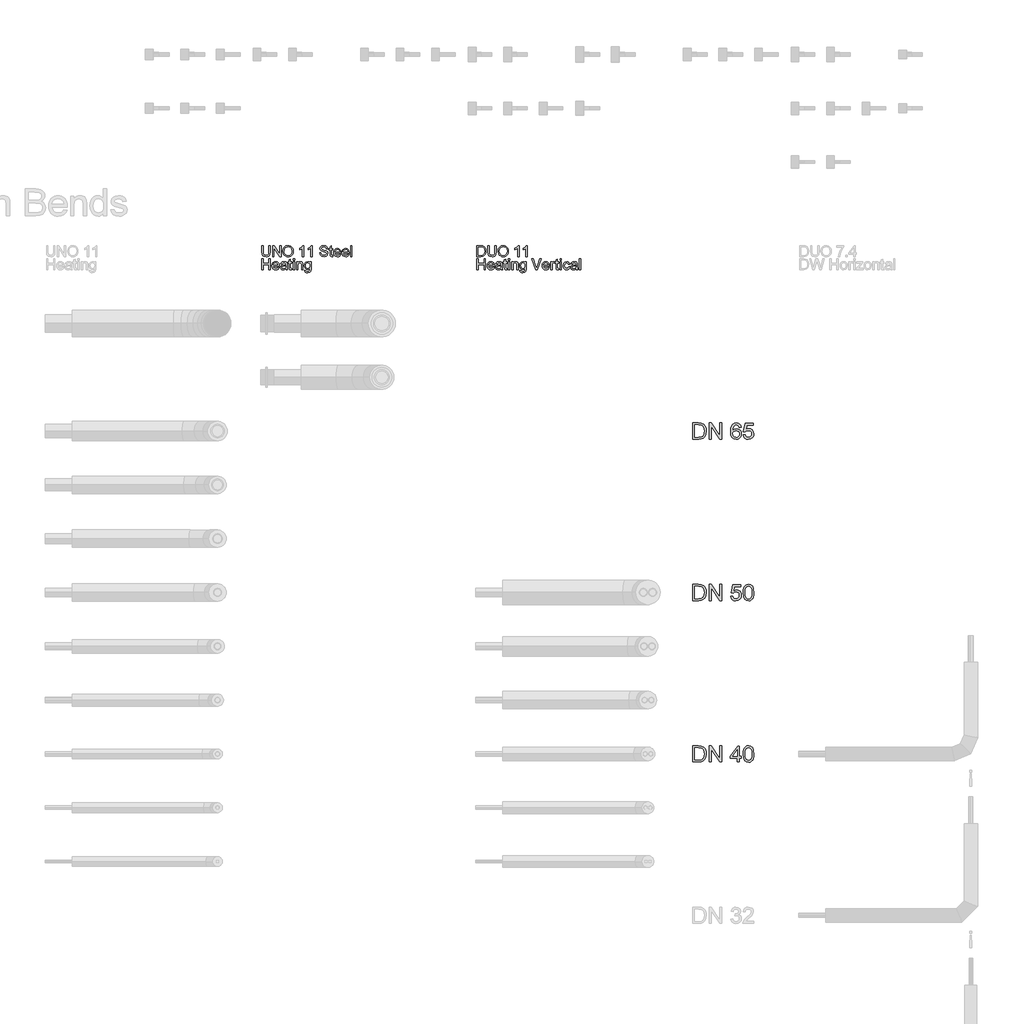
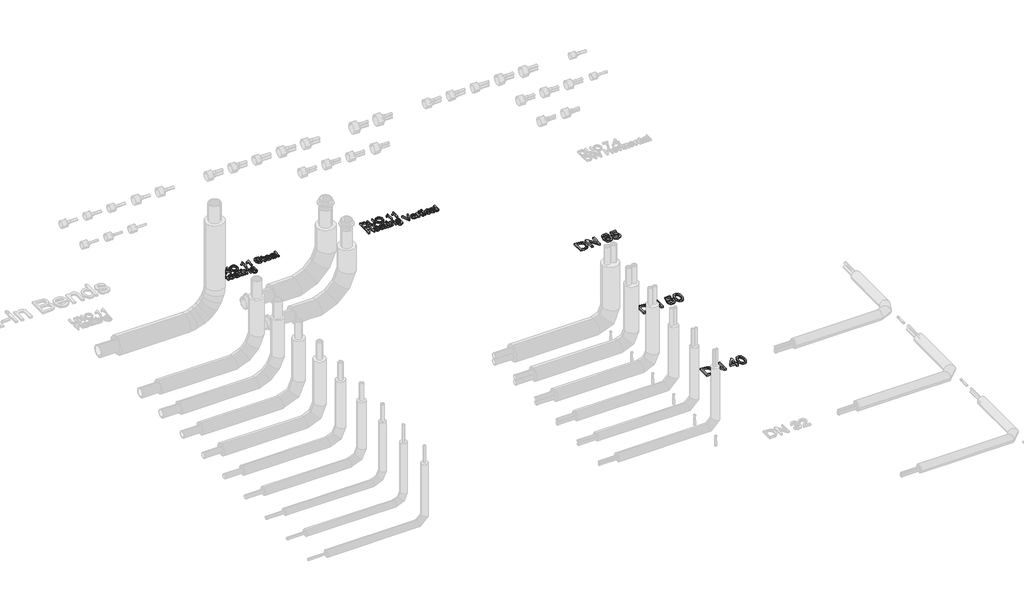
# One storey, part 11 of 44: 5 proxies.
"""IFC4 building model written with IfcOpenShell, lengths in millimetres."""

import ifcopenshell
import ifcopenshell.guid

model = None  # the IFC model being written
_history = None  # IfcOwnerHistory: only IFC2X3 demands one
_inside = {}  # id of a spatial element -> (the spatial element, [elements in it])
_under = {}  # id of a project, library or spatial element -> (it, [spatial elements below it])
_declared = {}  # id of a project -> (the project, [libraries it declares])
_typed = {}  # id of a type object -> (the type object, [elements of that type])
_made_of = {}  # id of a material, layer set ... -> (it, [elements and type objects made of it])


def new_model(schema):
    """Start an empty IFC model of exactly this schema.

    Asked for "IFC4X3", IfcOpenShell would pick the latest addendum, in which some entities
    have other attributes; the version numbers below select the first issue.
    IFC2X3 requires an IfcOwnerHistory on every rooted entity: one is made here for all.
    """
    global model, _history
    if schema == "IFC4X3":
        model = ifcopenshell.file(schema_version=(4, 3, 0, 0))
    else:
        model = ifcopenshell.file(schema=schema)
    _inside.clear()
    _under.clear()
    _declared.clear()
    _typed.clear()
    _made_of.clear()
    _history = None
    if model.schema == "IFC2X3":
        org = make("IfcOrganization", Name="unknown")
        user = make(
            "IfcPersonAndOrganization",
            ThePerson=make("IfcPerson", FamilyName="unknown"),
            TheOrganization=org,
        )
        app = make(
            "IfcApplication",
            ApplicationDeveloper=org,
            Version="unknown",
            ApplicationFullName="unknown",
            ApplicationIdentifier="unknown",
        )
        _history = make(
            "IfcOwnerHistory",
            OwningUser=user,
            OwningApplication=app,
            ChangeAction="ADDED",
            CreationDate=0,
        )
    return model


def make(cls, **values):
    """One entity of the class cls with the attributes given. An attribute that is None is left unset."""
    return model.create_entity(
        cls, **{name: value for name, value in values.items() if value is not None}
    )


def rooted(cls, **values):
    """An entity with a GlobalId (a new one), such as an element, a storey or a relation."""
    return make(cls, GlobalId=ifcopenshell.guid.new(), OwnerHistory=_history, **values)


def si_unit(unit_type, name, prefix=None):
    """IfcSIUnit, for example si_unit("LENGTHUNIT", "METRE", prefix="MILLI")."""
    return make("IfcSIUnit", UnitType=unit_type, Prefix=prefix, Name=name)


def assignment(units):
    """IfcUnitAssignment: the units of a project."""
    return None if units is None else make("IfcUnitAssignment", Units=units)


def point(xyz):
    """IfcCartesianPoint."""
    return None if xyz is None else make("IfcCartesianPoint", Coordinates=xyz)


def direction(xyz):
    """IfcDirection."""
    return None if xyz is None else make("IfcDirection", DirectionRatios=xyz)


def frame(location, z_axis=None, x_axis=None):
    """IfcAxis2Placement3D, a coordinate frame: its origin and axes. An axis left out is left unset."""
    return make(
        "IfcAxis2Placement3D",
        Location=point(location),
        Axis=direction(z_axis),
        RefDirection=direction(x_axis),
    )


def origin():
    """The frame at (0, 0, 0) with its axes left unset."""
    return frame((0.0, 0.0, 0.0))


def origin_with_axes():
    """The frame at (0, 0, 0) with the z axis (0, 0, 1) and the x axis (1, 0, 0) written out."""
    return frame((0.0, 0.0, 0.0), z_axis=(0.0, 0.0, 1.0), x_axis=(1.0, 0.0, 0.0))


def place(relative_to, where):
    """IfcLocalPlacement: puts the frame where relative to a parent placement (None: the world)."""
    return make(
        "IfcLocalPlacement", PlacementRelTo=relative_to, RelativePlacement=where
    )


def context(
    kind, dimensions, precision=None, world=None, true_north=None, identifier=None
):
    """IfcGeometricRepresentationContext, for example the 3D "Model" context."""
    return make(
        "IfcGeometricRepresentationContext",
        ContextIdentifier=identifier,
        ContextType=kind,
        CoordinateSpaceDimension=dimensions,
        Precision=precision,
        WorldCoordinateSystem=world,
        TrueNorth=true_north,
    )


def project(units=None, contexts=None):
    """IfcProject with its units and contexts."""
    return rooted(
        "IfcProject",
        Name="project",
        RepresentationContexts=contexts,
        UnitsInContext=assignment(units),
    )


def spatial(cls, under=None, at=None, **own):
    """A site, building, storey or space (cls), placed at a placement, below another one or the project."""
    s = rooted(cls, ObjectPlacement=at, **own)
    if under is not None:
        _under.setdefault(under.id(), (under, []))[1].append(s)
    return s


def polyline(points):
    """IfcPolyline through the points."""
    return make("IfcPolyline", Points=[point(p) for p in points])


def outline(outer, holes=None, kind="AREA"):
    """IfcArbitraryClosedProfileDef: a profile drawn as a closed curve; with holes, ...WithVoids."""
    if holes is None:
        return make("IfcArbitraryClosedProfileDef", ProfileType=kind, OuterCurve=outer)
    return make(
        "IfcArbitraryProfileDefWithVoids",
        ProfileType=kind,
        OuterCurve=outer,
        InnerCurves=holes,
    )


def extrude(swept, where, along, depth):
    """IfcExtrudedAreaSolid: the profile swept, set in the frame where, extruded along a direction by depth."""
    return make(
        "IfcExtrudedAreaSolid",
        SweptArea=swept,
        Position=where,
        ExtrudedDirection=direction(along),
        Depth=depth,
    )


def shape(context_of_items, identifier, shape_type, items):
    """IfcShapeRepresentation: the items that make up one representation, for example the "Body"."""
    return make(
        "IfcShapeRepresentation",
        ContextOfItems=context_of_items,
        RepresentationIdentifier=identifier,
        RepresentationType=shape_type,
        Items=items,
    )


def made_of(thing, what):
    """Note that an element or type object is made of a material, layer set ...; save() writes the relation."""
    if what is not None:
        _made_of.setdefault(what.id(), (what, []))[1].append(thing)
    return thing


def element(
    cls,
    number,
    at=None,
    inside=None,
    cuts=None,
    type_object=None,
    material=None,
    context=None,
    identifier="Body",
    shape_type=None,
    held_by="IfcProductDefinitionShape",
    body=None,
    shapes=None,
    **own,
):
    """One element of the class cls, such as IfcWall. Its Tag is "e" and its number.

    at: its placement. inside: the storey or other place that contains it. cuts: it is an
    opening in that element (IfcRelVoidsElement). A single representation is given by context,
    identifier, shape_type and body (its items); several are given by shapes. held_by: the class
    of the entity that holds the representations. save() writes the other relations.
    """
    e = rooted(cls, Tag="e%d" % number, ObjectPlacement=at, **own)
    if body is not None:
        shapes = [shape(context, identifier, shape_type, body)]
    if shapes is not None:
        e.Representation = make(held_by, Representations=shapes)
    if inside is not None:
        _inside.setdefault(inside.id(), (inside, []))[1].append(e)
    if cuts is not None:
        rooted(
            "IfcRelVoidsElement", RelatingBuildingElement=cuts, RelatedOpeningElement=e
        )
    if type_object is not None:
        _typed.setdefault(type_object.id(), (type_object, []))[1].append(e)
    return made_of(e, material)


def aggregate(whole, parts):
    """IfcRelAggregates: a whole, such as a stair, and the parts it consists of."""
    return rooted("IfcRelAggregates", RelatingObject=whole, RelatedObjects=parts)


def save(model, path):
    """Write the relations noted so far, then the file.

    IfcRelAggregates (storeys below a building ...), IfcRelContainedInSpatialStructure (elements
    in a storey), IfcRelDefinesByType, IfcRelAssociatesMaterial and IfcRelDeclares: one each for
    every whole, place, type object, material and project.
    """
    for whole, parts in _under.values():
        aggregate(whole, parts)
    for where, things in _inside.values():
        rooted(
            "IfcRelContainedInSpatialStructure",
            RelatedElements=things,
            RelatingStructure=where,
        )
    for kind, things in _typed.values():
        rooted("IfcRelDefinesByType", RelatedObjects=things, RelatingType=kind)
    for what, things in _made_of.values():
        rooted("IfcRelAssociatesMaterial", RelatedObjects=things, RelatingMaterial=what)
    for by, libraries in _declared.values():
        rooted("IfcRelDeclares", RelatingContext=by, RelatedDefinitions=libraries)
    model.write(path)


model = new_model("IFC4")

# Units and contexts
model_context = context("Model", 3, world=origin())
ifc_project = project(units=[si_unit("LENGTHUNIT", "METRE", prefix="MILLI")], contexts=[model_context])

# Site, building, storey
site = spatial("IfcSite", under=ifc_project)
building = spatial("IfcBuilding", under=site)
storey = spatial("IfcBuildingStorey", under=building, Name="REHAU Starting view", Elevation=0.0)

# Proxies
placement = place(None, origin())
element("IfcBuildingElementProxy", 1, Name="100", ObjectType="100", at=placement, inside=storey, context=model_context, shape_type="SweptSolid", body=[
    extrude(outline(polyline([(7076.9118625, 6222.431128), (7089.4689012, 6222.431128), (7089.4689012, 6164.477451), (7086.0598614, 6140.4547567), (7073.7726028, 6125.9847316), (7063.5086951, 6121.8000739), (7050.4734097, 6120.405188), (7027.529836, 6125.2612303), (7019.8901532, 6131.2055902), (7014.8011189, 6139.3265853), (7010.9874089, 6164.477451), (7010.9874089, 6222.431128), (7023.5444477, 6222.431128), (7023.5444477, 6164.9189094), (7026.0215198, 6145.7767829), (7034.5318566, 6136.2976902), (7049.2961874, 6132.9622268), (7062.067824, 6134.6115644), (7070.5597667, 6139.5595772), (7075.3238385, 6149.1980855), (7076.9118625, 6164.9189094), (7076.9118625, 6222.431128)])), origin_with_axes(), (0.0, 0.0, 1.0), 20.0),
    extrude(outline(polyline([(7111.4437191, 6121.9748178), (7111.4437191, 6222.431128), (7124.8836746, 6222.431128), (7177.3681726, 6142.8459897), (7177.3681726, 6222.431128), (7189.9252114, 6222.431128), (7189.9252114, 6121.9748178), (7176.4852558, 6121.9748178), (7124.0007578, 6201.5844816), (7124.0007578, 6121.9748178), (7111.4437191, 6121.9748178)])), origin_with_axes(), (0.0, 0.0, 1.0), 20.0),
    extrude(outline(polyline([(7207.1911397, 6170.8785977), (7210.5388658, 6193.0925389), (7220.5820443, 6209.8986147), (7235.9165921, 6220.4752221), (7255.1384264, 6224.0007578), (7268.3147332, 6222.3452889), (7280.1298766, 6217.3788819), (7289.9400631, 6209.4510249), (7297.1014993, 6198.9112058), (7301.479295, 6186.2683279), (7302.9385603, 6172.0312947), (7301.402653, 6157.6041891), (7296.794931, 6144.7835015), (7289.369846, 6134.2252883), (7279.3818499, 6126.5856055), (7267.667874, 6121.9502924), (7255.06485, 6120.405188), (7241.6862081, 6122.1127736), (7229.8036197, 6127.2355304), (7220.0179586, 6135.3105402), (7212.9300988, 6145.8748848), (7207.1911397, 6170.8785977)]), holes=[polyline([(7219.7481785, 6170.7559704), (7222.2589731, 6155.0412778), (7229.7913569, 6143.0667189), (7241.1129253, 6135.4883498), (7254.9912736, 6132.9622268), (7269.071957, 6135.5128753), (7280.4119195, 6143.1648208), (7287.889121, 6155.5072617), (7290.3815215, 6172.1293965), (7286.1140904, 6192.8534156), (7273.6428907, 6206.575414), (7255.2120028, 6211.4437191), (7241.7046022, 6209.0984714), (7230.2205526, 6202.0627282), (7222.366272, 6189.5455433), (7219.7481785, 6170.7559704)])]), origin_with_axes(), (0.0, 0.0, 1.0), 20.0),
    extrude(outline(polyline([(7401.8252406, 6121.9748178), (7389.2682018, 6121.9748178), (7389.2682018, 6200.2601064), (7377.3733507, 6191.7865578), (7364.1541243, 6185.4467247), (7364.1541243, 6197.3170505), (7382.5604868, 6209.0647488), (7393.7318367, 6222.431128), (7401.8252406, 6222.431128), (7401.8252406, 6121.9748178)])), origin_with_axes(), (0.0, 0.0, 1.0), 20.0),
    extrude(outline(polyline([(7478.7371031, 6121.9748178), (7466.1800643, 6121.9748178), (7466.1800643, 6200.2601064), (7454.2852131, 6191.7865578), (7441.0659868, 6185.4467247), (7441.0659868, 6197.3170505), (7459.4723492, 6209.0647488), (7470.6436992, 6222.431128), (7478.7371031, 6222.431128), (7478.7371031, 6121.9748178)])), origin_with_axes(), (0.0, 0.0, 1.0), 20.0),
    extrude(outline(polyline([(7547.8008163, 6156.5066745), (7560.3578551, 6156.5066745), (7564.404557, 6143.937373), (7574.2883199, 6135.9911219), (7589.3469563, 6132.9622268), (7602.4680808, 6135.2553579), (7610.9416294, 6141.5584027), (7613.7252698, 6149.9829004), (7611.6406052, 6157.8187869), (7603.1057429, 6163.5209578), (7584.8220077, 6168.3156865), (7565.140321, 6174.5083668), (7554.4594804, 6183.8525694), (7550.940076, 6196.3360318), (7555.2933463, 6210.5485396), (7568.0098006, 6220.5794553), (7586.6246295, 6224.0007578), (7606.4902572, 6220.4200398), (7619.7340091, 6209.8986147), (7624.7126787, 6194.1777908), (7612.15564, 6194.1777908), (7609.8502461, 6201.6703207), (7605.0432547, 6207.0781861), (7587.1151388, 6211.4437191), (7569.137972, 6207.127237), (7563.4971147, 6196.7039138), (7567.4947658, 6187.9973732), (7587.9980556, 6180.9830899), (7610.2181281, 6174.680045), (7622.3704967, 6164.5019765), (7626.2823086, 6150.3017315), (7621.7818855, 6135.2798833), (7608.8324393, 6124.3169999), (7589.8374656, 6120.405188), (7567.4089266, 6124.6235682), (7553.2209443, 6137.3277598), (7547.8008163, 6156.5066745)])), origin_with_axes(), (0.0, 0.0, 1.0), 20.0),
    extrude(outline(polyline([(7670.2319443, 6132.447192), (7671.8015741, 6121.6069359), (7662.4083205, 6120.405188), (7651.8868955, 6122.4898526), (7646.6384457, 6127.9590316), (7645.1178667, 6142.2083276), (7645.1178667, 6183.1903818), (7635.7000877, 6183.1903818), (7635.7000877, 6195.7474206), (7645.1178667, 6195.7474206), (7645.1178667, 6213.6755365), (7657.6749055, 6221.0577019), (7657.6749055, 6195.7474206), (7670.2319443, 6195.7474206), (7670.2319443, 6183.1903818), (7657.6749055, 6183.1903818), (7657.6749055, 6142.5762096), (7658.3370931, 6136.1014865), (7660.4830714, 6133.8083554), (7664.7627653, 6132.9622268), (7670.2319443, 6132.447192)])), origin_with_axes(), (0.0, 0.0, 1.0), 20.0),
    extrude(outline(polyline([(7734.4396152, 6143.9496357), (7746.7513993, 6142.3800058), (7742.3153556, 6133.1032482), (7735.2366928, 6126.1686726), (7725.6748266, 6121.8460591), (7713.7891725, 6120.405188), (7699.0554986, 6122.8914571), (7687.7186018, 6130.3502646), (7680.4897206, 6142.2972324), (7678.0800935, 6158.2479826), (7680.514246, 6174.7352273), (7687.8167036, 6187.0654055), (7699.0003163, 6194.7541392), (7713.077934, 6197.3170505), (7726.717159, 6194.7602706), (7737.6156631, 6187.089931), (7744.7617708, 6174.7842783), (7747.1438067, 6158.321559), (7747.0702303, 6154.9370446), (7690.6371323, 6154.9370446), (7692.8107017, 6145.5376596), (7697.8598821, 6138.6276095), (7705.1470113, 6134.3785724), (7714.0344272, 6132.9622268), (7726.3462113, 6135.5864517), (7734.4396152, 6143.9496357)]), holes=[polyline([(7690.6371323, 6167.4940834), (7734.586768, 6167.4940834), (7729.5590474, 6178.8738998), (7722.2381957, 6183.2884837), (7713.0288831, 6184.7600117), (7697.5655765, 6180.0633849), (7692.7003371, 6174.5727461), (7690.6371323, 6167.4940834)])]), origin_with_axes(), (0.0, 0.0, 1.0), 20.0),
    extrude(outline(polyline([(7811.3514776, 6143.9496357), (7823.6632617, 6142.3800058), (7819.227218, 6133.1032482), (7812.1485553, 6126.1686726), (7802.5866891, 6121.8460591), (7790.701035, 6120.405188), (7775.9673611, 6122.8914571), (7764.6304642, 6130.3502646), (7757.401583, 6142.2972324), (7754.991956, 6158.2479826), (7757.4261085, 6174.7352273), (7764.7285661, 6187.0654055), (7775.9121788, 6194.7541392), (7789.9897964, 6197.3170505), (7803.6290214, 6194.7602706), (7814.5275255, 6187.089931), (7821.6736333, 6174.7842783), (7824.0556692, 6158.321559), (7823.9820928, 6154.9370446), (7767.5489947, 6154.9370446), (7769.7225642, 6145.5376596), (7774.7717446, 6138.6276095), (7782.0588738, 6134.3785724), (7790.9462896, 6132.9622268), (7803.2580737, 6135.5864517), (7811.3514776, 6143.9496357)]), holes=[polyline([(7767.5489947, 6167.4940834), (7811.4986304, 6167.4940834), (7806.4709098, 6178.8738998), (7799.1500581, 6183.2884837), (7789.9407455, 6184.7600117), (7774.477439, 6180.0633849), (7769.6121996, 6174.5727461), (7767.5489947, 6167.4940834)])]), origin_with_axes(), (0.0, 0.0, 1.0), 20.0),
    extrude(outline(polyline([(7836.612708, 6121.9748178), (7836.612708, 6222.431128), (7849.1697467, 6222.431128), (7849.1697467, 6121.9748178), (7836.612708, 6121.9748178)])), origin_with_axes(), (0.0, 0.0, 1.0), 20.0),
    extrude(outline(polyline([(7010.9874089, 6000.0), (7010.9874089, 6100.4563101), (7023.5444477, 6100.4563101), (7023.5444477, 6059.6459342), (7076.9118625, 6059.6459342), (7076.9118625, 6100.4563101), (7089.4689012, 6100.4563101), (7089.4689012, 6000.0), (7076.9118625, 6000.0), (7076.9118625, 6047.0888954), (7023.5444477, 6047.0888954), (7023.5444477, 6000.0), (7010.9874089, 6000.0)])), origin_with_axes(), (0.0, 0.0, 1.0), 20.0),
    extrude(outline(polyline([(7161.5247213, 6021.9748178), (7173.8365055, 6020.405188), (7169.4004617, 6011.1284304), (7162.321799, 6004.1938547), (7152.7599328, 5999.8712413), (7140.8742787, 5998.4303702), (7126.1406048, 6000.9166393), (7114.803708, 6008.3754468), (7107.5748268, 6020.3224146), (7105.1651997, 6036.2731647), (7107.5993522, 6052.7604095), (7114.9018098, 6065.0905877), (7126.0854225, 6072.7793214), (7140.1630402, 6075.3422326), (7153.8022651, 6072.7854527), (7164.7007692, 6065.1151131), (7171.846877, 6052.8094604), (7174.2289129, 6036.3467411), (7174.1553365, 6032.9622268), (7117.7222385, 6032.9622268), (7119.8958079, 6023.5628418), (7124.9449883, 6016.6527916), (7132.2321175, 6012.4037546), (7141.1195333, 6010.9874089), (7153.4313175, 6013.6116338), (7161.5247213, 6021.9748178)]), holes=[polyline([(7117.7222385, 6045.5192655), (7161.6718741, 6045.5192655), (7156.6441535, 6056.8990819), (7149.3233018, 6061.3136659), (7140.1139892, 6062.7851938), (7124.6506827, 6058.088567), (7119.7854433, 6052.5979283), (7117.7222385, 6045.5192655)])]), origin_with_axes(), (0.0, 0.0, 1.0), 20.0),
    extrude(outline(polyline([(7233.8748471, 6009.4177791), (7221.697953, 6000.9074423), (7208.2457347, 5998.4303702), (7197.7519008, 5999.9202922), (7190.0110505, 6004.3900585), (7185.2377816, 6011.1774813), (7183.646692, 6019.6203731), (7186.0501877, 6029.5531869), (7192.3654953, 6036.7636741), (7201.157875, 6040.8839524), (7212.0226566, 6042.7724133), (7233.8012707, 6047.0888954), (7233.8748471, 6049.8847985), (7230.4167563, 6059.1554248), (7216.5353424, 6062.7851938), (7203.8311508, 6060.3694354), (7197.7733606, 6051.7977849), (7185.2163218, 6053.3674148), (7190.6487126, 6065.6301479), (7201.5870706, 6072.8161096), (7218.1540231, 6075.3422326), (7233.372075, 6073.1104152), (7241.968251, 6067.5063461), (7245.8187492, 6058.9837466), (7246.4318858, 6047.9963376), (7246.4318858, 6032.3736156), (7247.069548, 6010.5582133), (7249.5711455, 6000.0), (7237.0141068, 6000.0), (7233.8748471, 6009.4177791)]), holes=[polyline([(7233.8748471, 6034.5318566), (7213.6168119, 6030.6813584), (7202.8133439, 6028.6457447), (7197.9205134, 6025.3348067), (7196.2037308, 6020.5032899), (7199.9438644, 6013.7097357), (7210.9190106, 6010.9874089), (7223.6232021, 6013.9917785), (7231.8147079, 6021.2635793), (7233.8012707, 6030.975664), (7233.8748471, 6034.5318566)])]), origin_with_axes(), (0.0, 0.0, 1.0), 20.0),
    extrude(outline(polyline([(7290.3815215, 6010.4723741), (7291.9511514, 5999.632118), (7282.5578978, 5998.4303702), (7272.0364727, 6000.5150348), (7266.7880229, 6005.9842138), (7265.267444, 6020.2335097), (7265.267444, 6061.215564), (7255.8496649, 6061.215564), (7255.8496649, 6073.7726028), (7265.267444, 6073.7726028), (7265.267444, 6091.7007187), (7277.8244828, 6099.082884), (7277.8244828, 6073.7726028), (7290.3815215, 6073.7726028), (7290.3815215, 6061.215564), (7277.8244828, 6061.215564), (7277.8244828, 6020.6013917), (7278.4866703, 6014.1266686), (7280.6326487, 6011.8335375), (7284.9123425, 6010.9874089), (7290.3815215, 6010.4723741)])), origin_with_axes(), (0.0, 0.0, 1.0), 20.0),
    extrude(outline(polyline([(7302.9385603, 6087.8992714), (7302.9385603, 6100.4563101), (7315.4955991, 6100.4563101), (7315.4955991, 6087.8992714), (7302.9385603, 6087.8992714)])), origin_with_axes(), (0.0, 0.0, 1.0), 20.0),
    extrude(outline(polyline([(7302.9385603, 6000.0), (7302.9385603, 6073.7726028), (7315.4955991, 6073.7726028), (7315.4955991, 6000.0), (7302.9385603, 6000.0)])), origin_with_axes(), (0.0, 0.0, 1.0), 20.0),
    extrude(outline(polyline([(7334.3311572, 6000.0), (7334.3311572, 6073.7726028), (7346.888196, 6073.7726028), (7346.888196, 6063.4719069), (7356.4899161, 6072.3746512), (7369.5987778, 6075.3422326), (7381.4568408, 6072.9509996), (7389.5502447, 6066.6724803), (7393.3149038, 6057.4386422), (7393.9770914, 6045.2985363), (7393.9770914, 6000.0), (7381.4200526, 6000.0), (7381.4200526, 6043.6062792), (7379.9730501, 6054.7163154), (7374.8594904, 6060.5901646), (7366.2387889, 6062.7851938), (7352.6148924, 6057.8555751), (7348.3198701, 6050.712533), (7346.888196, 6039.1426443), (7346.888196, 6000.0), (7334.3311572, 6000.0)])), origin_with_axes(), (0.0, 0.0, 1.0), 20.0),
    extrude(outline(polyline([(7408.10376, 5993.7214806), (7420.6607988, 5992.1518508), (7424.7320262, 5985.5299749), (7436.9211829, 5982.7340717), (7449.7725273, 5985.8978569), (7455.9038939, 5994.7760757), (7456.7622852, 6009.4177791), (7447.9208546, 6002.3544448), (7437.1419121, 6000.0), (7424.1955316, 6002.7407209), (7414.5416949, 6010.9628835), (7408.5360213, 6023.0171502), (7406.5341301, 6037.2541834), (7410.127111, 6056.7151409), (7420.5259087, 6070.4861903), (7436.5287755, 6075.3422326), (7447.7307822, 6072.5953804), (7456.7622852, 6064.3548237), (7456.7622852, 6073.7726028), (7469.319324, 6073.7726028), (7469.319324, 6010.0799667), (7465.8857587, 5985.6893904), (7455.0087144, 5974.3463622), (7436.6759283, 5970.1770329), (7424.9926092, 5971.6454952), (7415.7924937, 5976.0508821), (7409.8910533, 5983.4054563), (7408.10376, 5993.7214806)]), holes=[polyline([(7419.0911689, 6038.1125747), (7420.4308725, 6026.5948026), (7424.4499833, 6018.6761426), (7430.4924451, 6014.0868147), (7437.9022016, 6012.5570388), (7445.2567758, 6014.0776177), (7451.3298944, 6018.6393544), (7455.4041875, 6026.4568468), (7456.7622852, 6037.7446927), (7455.3643336, 6048.6309341), (7451.1704789, 6056.4698863), (7445.0084555, 6061.2063669), (7437.7059979, 6062.7851938), (7430.5353646, 6061.2308924), (7424.5235597, 6056.5679881), (7420.4492666, 6048.8455319), (7419.0911689, 6038.1125747)])]), origin_with_axes(), (0.0, 0.0, 1.0), 20.0),
])
element("IfcBuildingElementProxy", 2, Name="100", ObjectType="100", at=placement, inside=storey, context=model_context, shape_type="SweptSolid", body=[
    extrude(outline(polyline([(9010.9874089, 6121.9748178), (9010.9874089, 6222.431128), (9045.6418929, 6222.431128), (9063.5700088, 6220.9841255), (9078.3343395, 6213.7981638), (9090.2291907, 6196.6303374), (9094.1777908, 6172.7425332), (9091.5045149, 6152.4722352), (9084.6373844, 6137.8427946), (9075.4648599, 6128.7315838), (9063.4596442, 6123.6916005), (9047.3096246, 6121.9748178), (9010.9874089, 6121.9748178)]), holes=[polyline([(9023.5444477, 6134.5318566), (9045.7645202, 6134.5318566), (9061.9268025, 6136.3467411), (9071.2464797, 6141.4725636), (9078.8861625, 6153.9437632), (9081.620752, 6172.9387369), (9080.2810484, 6186.6239471), (9076.2619376, 6196.7284393), (9063.2266522, 6207.863001), (9045.4211637, 6209.8740892), (9023.5444477, 6209.8740892), (9023.5444477, 6134.5318566)])]), origin_with_axes(), (0.0, 0.0, 1.0), 20.0),
    extrude(outline(polyline([(9177.3681726, 6222.431128), (9189.9252114, 6222.431128), (9189.9252114, 6164.477451), (9186.5161716, 6140.4547567), (9174.2289129, 6125.9847316), (9163.9650053, 6121.8000739), (9150.9297199, 6120.405188), (9127.9861461, 6125.2612303), (9120.3464634, 6131.2055902), (9115.2574291, 6139.3265853), (9111.4437191, 6164.477451), (9111.4437191, 6222.431128), (9124.0007578, 6222.431128), (9124.0007578, 6164.9189094), (9126.4778299, 6145.7767829), (9134.9881668, 6136.2976902), (9149.7524975, 6132.9622268), (9162.5241341, 6134.6115644), (9171.0160768, 6139.5595772), (9175.7801487, 6149.1980855), (9177.3681726, 6164.9189094), (9177.3681726, 6222.431128)])), origin_with_axes(), (0.0, 0.0, 1.0), 20.0),
    extrude(outline(polyline([(9207.1911397, 6170.8785977), (9210.5388658, 6193.0925389), (9220.5820443, 6209.8986147), (9235.9165921, 6220.4752221), (9255.1384264, 6224.0007578), (9268.3147332, 6222.3452889), (9280.1298766, 6217.3788819), (9289.9400631, 6209.4510249), (9297.1014993, 6198.9112058), (9301.479295, 6186.2683279), (9302.9385603, 6172.0312947), (9301.402653, 6157.6041891), (9296.794931, 6144.7835015), (9289.369846, 6134.2252883), (9279.3818499, 6126.5856055), (9267.667874, 6121.9502924), (9255.06485, 6120.405188), (9241.6862081, 6122.1127736), (9229.8036197, 6127.2355304), (9220.0179586, 6135.3105402), (9212.9300988, 6145.8748848), (9207.1911397, 6170.8785977)]), holes=[polyline([(9219.7481785, 6170.7559704), (9222.2589731, 6155.0412778), (9229.7913569, 6143.0667189), (9241.1129253, 6135.4883498), (9254.9912736, 6132.9622268), (9269.071957, 6135.5128753), (9280.4119195, 6143.1648208), (9287.889121, 6155.5072617), (9290.3815215, 6172.1293965), (9286.1140904, 6192.8534156), (9273.6428907, 6206.575414), (9255.2120028, 6211.4437191), (9241.7046022, 6209.0984714), (9230.2205526, 6202.0627282), (9222.366272, 6189.5455433), (9219.7481785, 6170.7559704)])]), origin_with_axes(), (0.0, 0.0, 1.0), 20.0),
    extrude(outline(polyline([(9401.8252406, 6121.9748178), (9389.2682018, 6121.9748178), (9389.2682018, 6200.2601064), (9377.3733507, 6191.7865578), (9364.1541243, 6185.4467247), (9364.1541243, 6197.3170505), (9382.5604868, 6209.0647488), (9393.7318367, 6222.431128), (9401.8252406, 6222.431128), (9401.8252406, 6121.9748178)])), origin_with_axes(), (0.0, 0.0, 1.0), 20.0),
    extrude(outline(polyline([(9478.7371031, 6121.9748178), (9466.1800643, 6121.9748178), (9466.1800643, 6200.2601064), (9454.2852131, 6191.7865578), (9441.0659868, 6185.4467247), (9441.0659868, 6197.3170505), (9459.4723492, 6209.0647488), (9470.6436992, 6222.431128), (9478.7371031, 6222.431128), (9478.7371031, 6121.9748178)])), origin_with_axes(), (0.0, 0.0, 1.0), 20.0),
    extrude(outline(polyline([(9010.9874089, 6000.0), (9010.9874089, 6100.4563101), (9023.5444477, 6100.4563101), (9023.5444477, 6059.6459342), (9076.9118625, 6059.6459342), (9076.9118625, 6100.4563101), (9089.4689012, 6100.4563101), (9089.4689012, 6000.0), (9076.9118625, 6000.0), (9076.9118625, 6047.0888954), (9023.5444477, 6047.0888954), (9023.5444477, 6000.0), (9010.9874089, 6000.0)])), origin_with_axes(), (0.0, 0.0, 1.0), 20.0),
    extrude(outline(polyline([(9161.5247213, 6021.9748178), (9173.8365055, 6020.405188), (9169.4004617, 6011.1284304), (9162.321799, 6004.1938547), (9152.7599328, 5999.8712413), (9140.8742787, 5998.4303702), (9126.1406048, 6000.9166393), (9114.803708, 6008.3754468), (9107.5748268, 6020.3224146), (9105.1651997, 6036.2731647), (9107.5993522, 6052.7604095), (9114.9018098, 6065.0905877), (9126.0854225, 6072.7793214), (9140.1630402, 6075.3422326), (9153.8022651, 6072.7854527), (9164.7007692, 6065.1151131), (9171.846877, 6052.8094604), (9174.2289129, 6036.3467411), (9174.1553365, 6032.9622268), (9117.7222385, 6032.9622268), (9119.8958079, 6023.5628418), (9124.9449883, 6016.6527916), (9132.2321175, 6012.4037546), (9141.1195333, 6010.9874089), (9153.4313175, 6013.6116338), (9161.5247213, 6021.9748178)]), holes=[polyline([(9117.7222385, 6045.5192655), (9161.6718741, 6045.5192655), (9156.6441535, 6056.8990819), (9149.3233018, 6061.3136659), (9140.1139892, 6062.7851938), (9124.6506827, 6058.088567), (9119.7854433, 6052.5979283), (9117.7222385, 6045.5192655)])]), origin_with_axes(), (0.0, 0.0, 1.0), 20.0),
    extrude(outline(polyline([(9233.8748471, 6009.4177791), (9221.697953, 6000.9074423), (9208.2457347, 5998.4303702), (9197.7519008, 5999.9202922), (9190.0110505, 6004.3900585), (9185.2377816, 6011.1774813), (9183.646692, 6019.6203731), (9186.0501877, 6029.5531869), (9192.3654953, 6036.7636741), (9201.157875, 6040.8839524), (9212.0226566, 6042.7724133), (9233.8012707, 6047.0888954), (9233.8748471, 6049.8847985), (9230.4167563, 6059.1554248), (9216.5353424, 6062.7851938), (9203.8311508, 6060.3694354), (9197.7733606, 6051.7977849), (9185.2163218, 6053.3674148), (9190.6487126, 6065.6301479), (9201.5870706, 6072.8161096), (9218.1540231, 6075.3422326), (9233.372075, 6073.1104152), (9241.968251, 6067.5063461), (9245.8187492, 6058.9837466), (9246.4318858, 6047.9963376), (9246.4318858, 6032.3736156), (9247.069548, 6010.5582133), (9249.5711455, 6000.0), (9237.0141068, 6000.0), (9233.8748471, 6009.4177791)]), holes=[polyline([(9233.8748471, 6034.5318566), (9213.6168119, 6030.6813584), (9202.8133439, 6028.6457447), (9197.9205134, 6025.3348067), (9196.2037308, 6020.5032899), (9199.9438644, 6013.7097357), (9210.9190106, 6010.9874089), (9223.6232021, 6013.9917785), (9231.8147079, 6021.2635793), (9233.8012707, 6030.975664), (9233.8748471, 6034.5318566)])]), origin_with_axes(), (0.0, 0.0, 1.0), 20.0),
    extrude(outline(polyline([(9290.3815215, 6010.4723741), (9291.9511514, 5999.632118), (9282.5578978, 5998.4303702), (9272.0364727, 6000.5150348), (9266.7880229, 6005.9842138), (9265.267444, 6020.2335097), (9265.267444, 6061.215564), (9255.8496649, 6061.215564), (9255.8496649, 6073.7726028), (9265.267444, 6073.7726028), (9265.267444, 6091.7007187), (9277.8244828, 6099.082884), (9277.8244828, 6073.7726028), (9290.3815215, 6073.7726028), (9290.3815215, 6061.215564), (9277.8244828, 6061.215564), (9277.8244828, 6020.6013917), (9278.4866703, 6014.1266686), (9280.6326487, 6011.8335375), (9284.9123425, 6010.9874089), (9290.3815215, 6010.4723741)])), origin_with_axes(), (0.0, 0.0, 1.0), 20.0),
    extrude(outline(polyline([(9302.9385603, 6087.8992714), (9302.9385603, 6100.4563101), (9315.4955991, 6100.4563101), (9315.4955991, 6087.8992714), (9302.9385603, 6087.8992714)])), origin_with_axes(), (0.0, 0.0, 1.0), 20.0),
    extrude(outline(polyline([(9302.9385603, 6000.0), (9302.9385603, 6073.7726028), (9315.4955991, 6073.7726028), (9315.4955991, 6000.0), (9302.9385603, 6000.0)])), origin_with_axes(), (0.0, 0.0, 1.0), 20.0),
    extrude(outline(polyline([(9334.3311572, 6000.0), (9334.3311572, 6073.7726028), (9346.888196, 6073.7726028), (9346.888196, 6063.4719069), (9356.4899161, 6072.3746512), (9369.5987778, 6075.3422326), (9381.4568408, 6072.9509996), (9389.5502447, 6066.6724803), (9393.3149038, 6057.4386422), (9393.9770914, 6045.2985363), (9393.9770914, 6000.0), (9381.4200526, 6000.0), (9381.4200526, 6043.6062792), (9379.9730501, 6054.7163154), (9374.8594904, 6060.5901646), (9366.2387889, 6062.7851938), (9352.6148924, 6057.8555751), (9348.3198701, 6050.712533), (9346.888196, 6039.1426443), (9346.888196, 6000.0), (9334.3311572, 6000.0)])), origin_with_axes(), (0.0, 0.0, 1.0), 20.0),
    extrude(outline(polyline([(9408.10376, 5993.7214806), (9420.6607988, 5992.1518508), (9424.7320262, 5985.5299749), (9436.9211829, 5982.7340717), (9449.7725273, 5985.8978569), (9455.9038939, 5994.7760757), (9456.7622852, 6009.4177791), (9447.9208546, 6002.3544448), (9437.1419121, 6000.0), (9424.1955316, 6002.7407209), (9414.5416949, 6010.9628835), (9408.5360213, 6023.0171502), (9406.5341301, 6037.2541834), (9410.127111, 6056.7151409), (9420.5259087, 6070.4861903), (9436.5287755, 6075.3422326), (9447.7307822, 6072.5953804), (9456.7622852, 6064.3548237), (9456.7622852, 6073.7726028), (9469.319324, 6073.7726028), (9469.319324, 6010.0799667), (9465.8857587, 5985.6893904), (9455.0087144, 5974.3463622), (9436.6759283, 5970.1770329), (9424.9926092, 5971.6454952), (9415.7924937, 5976.0508821), (9409.8910533, 5983.4054563), (9408.10376, 5993.7214806)]), holes=[polyline([(9419.0911689, 6038.1125747), (9420.4308725, 6026.5948026), (9424.4499833, 6018.6761426), (9430.4924451, 6014.0868147), (9437.9022016, 6012.5570388), (9445.2567758, 6014.0776177), (9451.3298944, 6018.6393544), (9455.4041875, 6026.4568468), (9456.7622852, 6037.7446927), (9455.3643336, 6048.6309341), (9451.1704789, 6056.4698863), (9445.0084555, 6061.2063669), (9437.7059979, 6062.7851938), (9430.5353646, 6061.2308924), (9424.5235597, 6056.5679881), (9420.4492666, 6048.8455319), (9419.0911689, 6038.1125747)])]), origin_with_axes(), (0.0, 0.0, 1.0), 20.0),
    extrude(outline(polyline([(9558.6410724, 6000.0), (9518.6645623, 6100.4563101), (9532.1045178, 6100.4563101), (9558.8618016, 6028.081659), (9564.2819297, 6011.7722238), (9569.6284813, 6028.081659), (9596.4593415, 6100.4563101), (9609.8992971, 6100.4563101), (9571.6150441, 6000.0), (9558.6410724, 6000.0)])), origin_with_axes(), (0.0, 0.0, 1.0), 20.0),
    extrude(outline(polyline([(9671.6544213, 6021.9748178), (9683.9662054, 6020.405188), (9679.5301617, 6011.1284304), (9672.451499, 6004.1938547), (9662.8896328, 5999.8712413), (9651.0039787, 5998.4303702), (9636.2703048, 6000.9166393), (9624.9334079, 6008.3754468), (9617.7045267, 6020.3224146), (9615.2948997, 6036.2731647), (9617.7290522, 6052.7604095), (9625.0315098, 6065.0905877), (9636.2151225, 6072.7793214), (9650.2927401, 6075.3422326), (9663.9319651, 6072.7854527), (9674.8304692, 6065.1151131), (9681.976577, 6052.8094604), (9684.3586129, 6036.3467411), (9684.2850365, 6032.9622268), (9627.8519384, 6032.9622268), (9630.0255079, 6023.5628418), (9635.0746883, 6016.6527916), (9642.3618175, 6012.4037546), (9651.2492333, 6010.9874089), (9663.5610174, 6013.6116338), (9671.6544213, 6021.9748178)]), holes=[polyline([(9627.8519384, 6045.5192655), (9671.8015741, 6045.5192655), (9666.7738535, 6056.8990819), (9659.4530018, 6061.3136659), (9650.2436892, 6062.7851938), (9634.7803827, 6058.088567), (9629.9151433, 6052.5979283), (9627.8519384, 6045.5192655)])]), origin_with_axes(), (0.0, 0.0, 1.0), 20.0),
    extrude(outline(polyline([(9770.6882544, 6010.4723741), (9772.2578843, 5999.632118), (9762.8646307, 5998.4303702), (9752.3432056, 6000.5150348), (9747.0947558, 6005.9842138), (9745.5741769, 6020.2335097), (9745.5741769, 6061.215564), (9736.1563978, 6061.215564), (9736.1563978, 6071.4672089), (9736.1563978, 6073.7726028), (9745.5741769, 6073.7726028), (9745.5741769, 6091.7007187), (9758.1312157, 6099.082884), (9758.1312157, 6073.7726028), (9770.6882544, 6073.7726028), (9770.6882544, 6061.215564), (9758.1312157, 6061.215564), (9758.1312157, 6020.6013917), (9758.7934033, 6014.1266686), (9760.9393816, 6011.8335375), (9765.2190754, 6010.9874089), (9770.6882544, 6010.4723741)])), origin_with_axes(), (0.0, 0.0, 1.0), 20.0),
    extrude(outline(polyline([(9696.9156517, 6000.0), (9696.9156517, 6073.7726028), (9707.9030606, 6073.7726028), (9707.9030606, 6062.8587702), (9715.7021589, 6072.9142114), (9723.5503081, 6075.3422326), (9736.1563978, 6071.4672089), (9731.9625431, 6060.2100199), (9723.1333752, 6062.7851938), (9716.0332527, 6060.3081217), (9711.5083041, 6053.4409912), (9709.4726904, 6038.7747623), (9709.4726904, 6000.0), (9696.9156517, 6000.0)])), origin_with_axes(), (0.0, 0.0, 1.0), 20.0),
    extrude(outline(polyline([(9783.2452932, 6087.8992714), (9783.2452932, 6100.4563101), (9795.802332, 6100.4563101), (9795.802332, 6087.8992714), (9783.2452932, 6087.8992714)])), origin_with_axes(), (0.0, 0.0, 1.0), 20.0),
    extrude(outline(polyline([(9783.2452932, 6000.0), (9783.2452932, 6073.7726028), (9795.802332, 6073.7726028), (9795.802332, 6000.0), (9783.2452932, 6000.0)])), origin_with_axes(), (0.0, 0.0, 1.0), 20.0),
    extrude(outline(polyline([(9861.7267855, 6026.6837074), (9874.2838243, 6025.1140775), (9870.782814, 6013.9457933), (9864.2038576, 6005.5059672), (9855.1662233, 6000.1992694), (9844.2891789, 5998.4303702), (9830.9319968, 6000.8982452), (9820.4872138, 6008.3018704), (9813.7457763, 6020.3162832), (9811.4986304, 6036.6165213), (9815.3368659, 6057.4754304), (9827.0355134, 6070.8785977), (9844.1175007, 6075.3422326), (9854.7278305, 6073.809391), (9863.2105762, 6069.210866), (9869.2959576, 6061.7919125), (9872.7141944, 6051.7977849), (9860.1571557, 6050.2281551), (9854.3323574, 6059.6336714), (9844.2156025, 6062.7851938), (9836.1007389, 6061.2339581), (9829.6597383, 6056.5802509), (9825.4566865, 6048.5726861), (9824.0556692, 6036.9598778), (9825.4260296, 6025.1907196), (9829.5371109, 6017.1555637), (9835.8616156, 6012.5294476), (9843.872246, 6010.9874089), (9855.7057835, 6014.8379071), (9861.7267855, 6026.6837074)])), origin_with_axes(), (0.0, 0.0, 1.0), 20.0),
    extrude(outline(polyline([(9932.3601286, 6009.4177791), (9920.1832345, 6000.9074423), (9906.7310162, 5998.4303702), (9896.2371823, 5999.9202922), (9888.496332, 6004.3900585), (9883.7230631, 6011.1774813), (9882.1319735, 6019.6203731), (9884.5354692, 6029.5531869), (9890.8507768, 6036.7636741), (9899.6431565, 6040.8839524), (9910.5079381, 6042.7724133), (9932.2865522, 6047.0888954), (9932.3601286, 6049.8847985), (9928.9020378, 6059.1554248), (9915.0206239, 6062.7851938), (9902.3164323, 6060.3694354), (9896.2586421, 6051.7977849), (9883.7016033, 6053.3674148), (9889.1339941, 6065.6301479), (9900.0723521, 6072.8161096), (9916.6393046, 6075.3422326), (9931.8573565, 6073.1104152), (9940.4535325, 6067.5063461), (9944.3040307, 6058.9837466), (9944.9171673, 6047.9963376), (9944.9171673, 6032.3736156), (9945.5548295, 6010.5582133), (9948.056427, 6000.0), (9935.4993883, 6000.0), (9932.3601286, 6009.4177791)]), holes=[polyline([(9932.3601286, 6034.5318566), (9912.1020934, 6030.6813584), (9901.2986254, 6028.6457447), (9896.4057949, 6025.3348067), (9894.6890123, 6020.5032899), (9898.4291459, 6013.7097357), (9909.4042921, 6010.9874089), (9922.1084836, 6013.9917785), (9930.2999894, 6021.2635793), (9932.2865522, 6030.975664), (9932.3601286, 6034.5318566)])]), origin_with_axes(), (0.0, 0.0, 1.0), 20.0),
    extrude(outline(polyline([(9962.1830957, 6000.0), (9962.1830957, 6100.4563101), (9974.7401344, 6100.4563101), (9974.7401344, 6000.0), (9962.1830957, 6000.0)])), origin_with_axes(), (0.0, 0.0, 1.0), 20.0),
])
element("IfcBuildingElementProxy", 3, Name="150", ObjectType="150", at=placement, inside=storey, context=model_context, shape_type="SweptSolid", body=[
    extrude(outline(polyline([(11016.4811134, 1425.0), (11016.4811134, 1575.6844652), (11068.4628393, 1575.6844652), (11095.3550131, 1573.5139615), (11117.5015093, 1562.735019), (11127.9217668, 1551.2571007), (11135.343786, 1536.9832793), (11139.7859611, 1520.1894663), (11141.2666861, 1501.151573), (11137.2567724, 1470.7461261), (11126.9560765, 1448.8019651), (11113.1972899, 1435.135149), (11095.1894663, 1427.575174), (11070.9644369, 1425.0), (11016.4811134, 1425.0)]), holes=[polyline([(11035.3166715, 1443.8355582), (11068.6467803, 1443.8355582), (11092.8902038, 1446.5578849), (11106.8697196, 1454.2466186), (11118.3292437, 1472.9534181), (11122.431128, 1501.4458786), (11120.4215726, 1521.9736939), (11114.3929064, 1537.1304321), (11105.4855636, 1547.5414926), (11094.8399784, 1553.8322747), (11068.1317455, 1556.8489071), (11035.3166715, 1556.8489071), (11035.3166715, 1443.8355582)])]), origin_with_axes(), (0.0, 0.0, 1.0), 20.0),
    extrude(outline(polyline([(11167.1655786, 1425.0), (11167.1655786, 1575.6844652), (11187.3255119, 1575.6844652), (11266.0522589, 1456.3067578), (11266.0522589, 1575.6844652), (11284.8878171, 1575.6844652), (11284.8878171, 1425.0), (11264.7278837, 1425.0), (11186.0011368, 1544.4144956), (11186.0011368, 1425.0), (11167.1655786, 1425.0)])), origin_with_axes(), (0.0, 0.0, 1.0), 20.0),
    extrude(outline(polyline([(11430.8633928, 1425.0), (11430.8633928, 1460.3166715), (11362.5844944, 1460.3166715), (11362.5844944, 1479.1522297), (11435.5722823, 1573.3300205), (11449.6989509, 1573.3300205), (11449.6989509, 1479.1522297), (11468.5345091, 1479.1522297), (11468.5345091, 1460.3166715), (11449.6989509, 1460.3166715), (11449.6989509, 1425.0), (11430.8633928, 1425.0)]), holes=[polyline([(11430.8633928, 1479.1522297), (11430.8633928, 1537.3511613), (11385.7610601, 1479.1522297), (11430.8633928, 1479.1522297)])]), origin_with_axes(), (0.0, 0.0, 1.0), 20.0),
    extrude(outline(polyline([(11485.0156224, 1499.128222), (11486.3997784, 1523.2474853), (11490.5522465, 1542.4831152), (11497.4316398, 1557.1294171), (11506.9965717, 1567.4806967), (11519.31602, 1573.6335231), (11534.4589626, 1575.6844652), (11556.4583059, 1570.8284229), (11571.6518323, 1556.830513), (11580.4810002, 1534.5368641), (11583.9023027, 1499.128222), (11582.5319423, 1475.1469145), (11578.420861, 1455.9572699), (11571.5828544, 1441.2971724), (11562.0317181, 1430.904506), (11549.6846787, 1424.7102929), (11534.4589626, 1422.6455552), (11514.8876404, 1426.2324047), (11500.0252078, 1436.992953), (11488.7680188, 1462.4779783), (11485.0156224, 1499.128222)]), holes=[polyline([(11503.8511806, 1499.1650102), (11506.0584726, 1469.536714), (11512.6803485, 1452.3888145), (11522.5395859, 1444.2080387), (11534.4589626, 1441.4811134), (11546.3783392, 1444.2172357), (11556.2375767, 1452.4256027), (11562.8594526, 1469.5826993), (11565.0667446, 1499.1650102), (11562.933029, 1528.1265203), (11556.5318823, 1545.407777), (11546.6910389, 1553.9886246), (11534.2382334, 1556.8489071), (11522.4476155, 1554.3289154), (11512.9746541, 1546.7689404), (11506.132049, 1528.4116288), (11503.8511806, 1499.1650102)])]), origin_with_axes(), (0.0, 0.0, 1.0), 20.0),
])
element("IfcBuildingElementProxy", 4, Name="150", ObjectType="150", at=placement, inside=storey, context=model_context, shape_type="SweptSolid", body=[
    extrude(outline(polyline([(11016.4811134, 2925.0), (11016.4811134, 3075.6844652), (11068.4628393, 3075.6844652), (11095.3550131, 3073.5139615), (11117.5015093, 3062.735019), (11127.9217668, 3051.2571007), (11135.343786, 3036.9832793), (11139.7859611, 3020.1894663), (11141.2666861, 3001.151573), (11137.2567724, 2970.7461261), (11126.9560765, 2948.8019651), (11113.1972899, 2935.135149), (11095.1894663, 2927.575174), (11070.9644369, 2925.0), (11016.4811134, 2925.0)]), holes=[polyline([(11035.3166715, 2943.8355582), (11068.6467803, 2943.8355582), (11092.8902038, 2946.5578849), (11106.8697196, 2954.2466186), (11118.3292437, 2972.9534181), (11122.431128, 3001.4458786), (11120.4215726, 3021.9736939), (11114.3929064, 3037.1304321), (11105.4855636, 3047.5414926), (11094.8399784, 3053.8322747), (11068.1317455, 3056.8489071), (11035.3166715, 3056.8489071), (11035.3166715, 2943.8355582)])]), origin_with_axes(), (0.0, 0.0, 1.0), 20.0),
    extrude(outline(polyline([(11167.1655786, 2925.0), (11167.1655786, 3075.6844652), (11187.3255119, 3075.6844652), (11266.0522589, 2956.3067578), (11266.0522589, 3075.6844652), (11284.8878171, 3075.6844652), (11284.8878171, 2925.0), (11264.7278837, 2925.0), (11186.0011368, 3044.4144956), (11186.0011368, 2925.0), (11167.1655786, 2925.0)])), origin_with_axes(), (0.0, 0.0, 1.0), 20.0),
    extrude(outline(polyline([(11369.6478288, 2965.0255611), (11388.4833869, 2967.3800058), (11391.9414777, 2956.072233), (11397.9747424, 2947.9742306), (11406.5555899, 2943.1043927), (11417.6564291, 2941.4811134), (11431.1576983, 2943.7389891), (11441.2744532, 2950.5126164), (11447.5928265, 2961.0202459), (11449.6989509, 2974.4801284), (11447.7261837, 2987.1536631), (11441.8078821, 2996.8473537), (11431.8980609, 3003.00018), (11417.9507347, 3005.0511222), (11401.414439, 3001.7769724), (11390.8378317, 2993.2788983), (11372.0022735, 2995.6333431), (11388.4833869, 3073.3300205), (11461.4711747, 3073.3300205), (11461.4711747, 3054.4944623), (11403.7137015, 3054.4944623), (11395.6570858, 3012.9973732), (11409.1123698, 3021.1643535), (11423.2114473, 3023.8866803), (11440.8100022, 3020.511363), (11455.4195159, 3010.3854111), (11465.2557608, 2994.9527614), (11468.5345091, 2975.6573507), (11465.582256, 2956.8217926), (11456.725497, 2940.7085612), (11439.766137, 2927.1613067), (11417.5828527, 2922.6455552), (11399.0829869, 2925.5472245), (11384.3447145, 2934.2522322), (11374.2417552, 2947.7489029), (11369.6478288, 2965.0255611)])), origin_with_axes(), (0.0, 0.0, 1.0), 20.0),
    extrude(outline(polyline([(11485.0156224, 2999.128222), (11486.3997784, 3023.2474853), (11490.5522465, 3042.4831152), (11497.4316398, 3057.1294171), (11506.9965717, 3067.4806967), (11519.31602, 3073.6335231), (11534.4589626, 3075.6844652), (11556.4583059, 3070.8284229), (11571.6518323, 3056.830513), (11580.4810002, 3034.5368641), (11583.9023027, 2999.128222), (11582.5319423, 2975.1469145), (11578.420861, 2955.9572699), (11571.5828544, 2941.2971724), (11562.0317181, 2930.904506), (11549.6846787, 2924.7102929), (11534.4589626, 2922.6455552), (11514.8876404, 2926.2324047), (11500.0252078, 2936.992953), (11488.7680188, 2962.4779783), (11485.0156224, 2999.128222)]), holes=[polyline([(11503.8511806, 2999.1650102), (11506.0584726, 2969.536714), (11512.6803485, 2952.3888145), (11522.5395859, 2944.2080387), (11534.4589626, 2941.4811134), (11546.3783392, 2944.2172357), (11556.2375767, 2952.4256027), (11562.8594526, 2969.5826993), (11565.0667446, 2999.1650102), (11562.933029, 3028.1265203), (11556.5318823, 3045.407777), (11546.6910389, 3053.9886246), (11534.2382334, 3056.8489071), (11522.4476155, 3054.3289154), (11512.9746541, 3046.7689404), (11506.132049, 3028.4116288), (11503.8511806, 2999.1650102)])]), origin_with_axes(), (0.0, 0.0, 1.0), 20.0),
])
element("IfcBuildingElementProxy", 5, Name="150", ObjectType="150", at=placement, inside=storey, context=model_context, shape_type="SweptSolid", body=[
    extrude(outline(polyline([(11016.4811134, 4425.0), (11016.4811134, 4575.6844652), (11068.4628393, 4575.6844652), (11095.3550131, 4573.5139615), (11117.5015093, 4562.735019), (11127.9217668, 4551.2571007), (11135.343786, 4536.9832793), (11139.7859611, 4520.1894663), (11141.2666861, 4501.151573), (11137.2567724, 4470.7461261), (11126.9560765, 4448.8019651), (11113.1972899, 4435.135149), (11095.1894663, 4427.575174), (11070.9644369, 4425.0), (11016.4811134, 4425.0)]), holes=[polyline([(11035.3166715, 4443.8355582), (11068.6467803, 4443.8355582), (11092.8902038, 4446.5578849), (11106.8697196, 4454.2466186), (11118.3292437, 4472.9534181), (11122.431128, 4501.4458786), (11120.4215726, 4521.9736939), (11114.3929064, 4537.1304321), (11105.4855636, 4547.5414926), (11094.8399784, 4553.8322747), (11068.1317455, 4556.8489071), (11035.3166715, 4556.8489071), (11035.3166715, 4443.8355582)])]), origin_with_axes(), (0.0, 0.0, 1.0), 20.0),
    extrude(outline(polyline([(11167.1655786, 4425.0), (11167.1655786, 4575.6844652), (11187.3255119, 4575.6844652), (11266.0522589, 4456.3067578), (11266.0522589, 4575.6844652), (11284.8878171, 4575.6844652), (11284.8878171, 4425.0), (11264.7278837, 4425.0), (11186.0011368, 4544.4144956), (11186.0011368, 4425.0), (11167.1655786, 4425.0)])), origin_with_axes(), (0.0, 0.0, 1.0), 20.0),
    extrude(outline(polyline([(11466.1800643, 4535.6589041), (11447.3445061, 4533.3044594), (11440.2075954, 4549.0130206), (11431.6635361, 4554.8899354), (11421.3352491, 4556.8489071), (11404.3391009, 4552.2871703), (11391.4816252, 4535.1622635), (11387.5774775, 4521.1321639), (11386.1289421, 4501.5930314), (11402.7388142, 4516.6210109), (11423.3218118, 4521.5322355), (11440.7226302, 4518.1753123), (11455.3275454, 4508.1045427), (11465.2327682, 4492.7178783), (11468.5345091, 4473.4132706), (11466.9802076, 4459.9257969), (11462.3173033, 4447.4224076), (11454.9320723, 4436.8182091), (11445.2107906, 4429.0283078), (11433.5949166, 4424.2412434), (11420.5259087, 4422.6455552), (11399.1565633, 4426.8761982), (11382.1374225, 4439.568127), (11371.0043936, 4461.9721405), (11367.293384, 4495.3390375), (11371.4136623, 4532.8538039), (11383.7744974, 4558.504376), (11400.6510839, 4571.3894429), (11422.5124715, 4575.6844652), (11439.0395701, 4573.0265178), (11452.2741249, 4565.0526756), (11461.5447511, 4552.3883379), (11466.1800643, 4535.6589041)]), holes=[polyline([(11386.1289421, 4473.7075762), (11390.4883438, 4457.3920097), (11402.0766266, 4445.5462094), (11419.0543807, 4441.4811134), (11431.4841936, 4443.5872378), (11441.2560591, 4449.9056111), (11447.588228, 4459.8384249), (11449.6989509, 4472.7878712), (11447.6158191, 4485.2176841), (11441.3664237, 4494.695244), (11431.4290113, 4500.696319), (11418.2818285, 4502.6966774), (11405.8704097, 4500.696319), (11395.4915389, 4494.695244), (11388.4695913, 4485.4476103), (11386.1289421, 4473.7075762)])]), origin_with_axes(), (0.0, 0.0, 1.0), 20.0),
    extrude(outline(polyline([(11485.0156224, 4465.0255611), (11503.8511806, 4467.3800058), (11507.3092713, 4456.072233), (11513.3425361, 4447.9742306), (11521.9233836, 4443.1043927), (11533.0242228, 4441.4811134), (11546.525492, 4443.7389891), (11556.6422469, 4450.5126164), (11562.9606202, 4461.0202459), (11565.0667446, 4474.4801284), (11563.0939774, 4487.1536631), (11557.1756758, 4496.8473537), (11547.2658545, 4503.00018), (11533.3185284, 4505.0511222), (11516.7822327, 4501.7769724), (11506.2056254, 4493.2788983), (11487.3700672, 4495.6333431), (11503.8511806, 4573.3300205), (11576.8389684, 4573.3300205), (11576.8389684, 4554.4944623), (11519.0814952, 4554.4944623), (11511.0248795, 4512.9973732), (11524.4801635, 4521.1643535), (11538.5792409, 4523.8866803), (11556.1777959, 4520.511363), (11570.7873096, 4510.3854111), (11580.6235545, 4494.9527614), (11583.9023027, 4475.6573507), (11580.9500497, 4456.8217926), (11572.0932907, 4440.7085612), (11555.1339307, 4427.1613067), (11532.9506464, 4422.6455552), (11514.4507806, 4425.5472245), (11499.7125081, 4434.2522322), (11489.6095489, 4447.7489029), (11485.0156224, 4465.0255611)])), origin_with_axes(), (0.0, 0.0, 1.0), 20.0),
])

save(model, "model.ifc")
